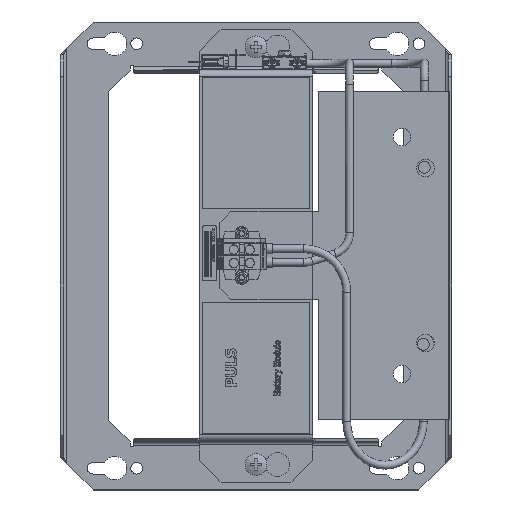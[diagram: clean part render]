
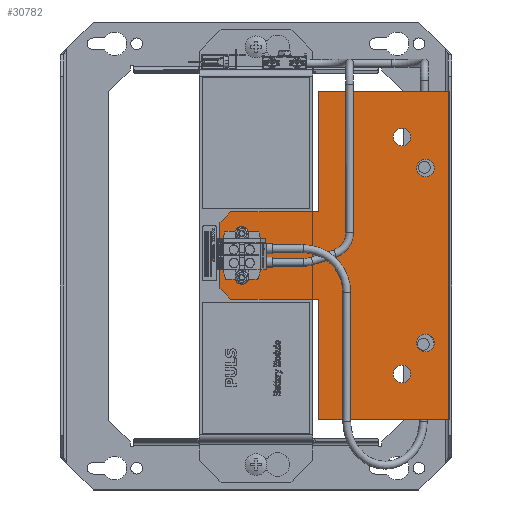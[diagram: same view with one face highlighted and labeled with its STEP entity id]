
A CAD part, top view. The second image highlights one B-rep face of the part: STEP entity #30782.
In plain terms, the highlighted planar face has unit normal (0, 0, 1).
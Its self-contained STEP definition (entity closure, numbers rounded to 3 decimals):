
#1481=FACE_BOUND('',#11617,.T.);
#1482=FACE_BOUND('',#11618,.T.);
#1483=FACE_BOUND('',#11619,.T.);
#1484=FACE_BOUND('',#11620,.T.);
#1485=FACE_BOUND('',#11621,.T.);
#1486=FACE_BOUND('',#11622,.T.);
#1760=PLANE('',#33156);
#3132=LINE('',#43454,#6478);
#3136=LINE('',#43462,#6482);
#3139=LINE('',#43468,#6485);
#3142=LINE('',#43474,#6488);
#3152=LINE('',#43509,#6498);
#3158=LINE('',#43525,#6504);
#3163=LINE('',#43536,#6509);
#3165=LINE('',#43541,#6511);
#3166=LINE('',#43542,#6512);
#3167=LINE('',#43543,#6513);
#6478=VECTOR('',#35779,10.);
#6482=VECTOR('',#35785,10.);
#6485=VECTOR('',#35790,10.);
#6488=VECTOR('',#35795,10.);
#6498=VECTOR('',#35825,10.);
#6504=VECTOR('',#35839,10.);
#6509=VECTOR('',#35852,10.);
#6511=VECTOR('',#35858,10.);
#6512=VECTOR('',#35859,10.);
#6513=VECTOR('',#35860,10.);
#9864=FACE_OUTER_BOUND('',#11616,.T.);
#11616=EDGE_LOOP('',(#22467,#22468,#22469,#22470,#22471,#22472,#22473,#22474,
#22475,#22476));
#11617=EDGE_LOOP('',(#22477,#22478));
#11618=EDGE_LOOP('',(#22479,#22480));
#11619=EDGE_LOOP('',(#22481,#22482));
#11620=EDGE_LOOP('',(#22483,#22484));
#11621=EDGE_LOOP('',(#22485,#22486));
#11622=EDGE_LOOP('',(#22487,#22488));
#13387=CIRCLE('',#33138,1.5);
#13388=CIRCLE('',#33139,1.5);
#13390=CIRCLE('',#33142,1.5);
#13391=CIRCLE('',#33143,1.5);
#13397=CIRCLE('',#33157,4.);
#13398=CIRCLE('',#33158,4.);
#13399=CIRCLE('',#33159,4.);
#13400=CIRCLE('',#33160,4.);
#13401=CIRCLE('',#33161,4.);
#13402=CIRCLE('',#33162,4.);
#13403=CIRCLE('',#33163,4.);
#13404=CIRCLE('',#33164,4.);
#14116=VERTEX_POINT('',#43452);
#14117=VERTEX_POINT('',#43453);
#14120=VERTEX_POINT('',#43461);
#14122=VERTEX_POINT('',#43467);
#14124=VERTEX_POINT('',#43473);
#14126=VERTEX_POINT('',#43479);
#14127=VERTEX_POINT('',#43480);
#14129=VERTEX_POINT('',#43487);
#14130=VERTEX_POINT('',#43488);
#14138=VERTEX_POINT('',#43506);
#14139=VERTEX_POINT('',#43508);
#14144=VERTEX_POINT('',#43522);
#14145=VERTEX_POINT('',#43524);
#14148=VERTEX_POINT('',#43540);
#14149=VERTEX_POINT('',#43544);
#14150=VERTEX_POINT('',#43545);
#14151=VERTEX_POINT('',#43548);
#14152=VERTEX_POINT('',#43549);
#14153=VERTEX_POINT('',#43552);
#14154=VERTEX_POINT('',#43553);
#14155=VERTEX_POINT('',#43556);
#14156=VERTEX_POINT('',#43557);
#17324=EDGE_CURVE('',#14116,#14117,#3132,.T.);
#17328=EDGE_CURVE('',#14120,#14116,#3136,.T.);
#17331=EDGE_CURVE('',#14122,#14120,#3139,.T.);
#17334=EDGE_CURVE('',#14122,#14124,#3142,.T.);
#17337=EDGE_CURVE('',#14126,#14127,#13387,.T.);
#17338=EDGE_CURVE('',#14127,#14126,#13388,.T.);
#17341=EDGE_CURVE('',#14129,#14130,#13390,.T.);
#17342=EDGE_CURVE('',#14130,#14129,#13391,.T.);
#17351=EDGE_CURVE('',#14138,#14139,#3152,.T.);
#17359=EDGE_CURVE('',#14144,#14145,#3158,.T.);
#17365=EDGE_CURVE('',#14144,#14139,#3163,.T.);
#17367=EDGE_CURVE('',#14148,#14117,#3165,.T.);
#17368=EDGE_CURVE('',#14145,#14148,#3166,.T.);
#17369=EDGE_CURVE('',#14124,#14138,#3167,.T.);
#17370=EDGE_CURVE('',#14149,#14150,#13397,.T.);
#17371=EDGE_CURVE('',#14150,#14149,#13398,.T.);
#17372=EDGE_CURVE('',#14151,#14152,#13399,.T.);
#17373=EDGE_CURVE('',#14152,#14151,#13400,.T.);
#17374=EDGE_CURVE('',#14153,#14154,#13401,.T.);
#17375=EDGE_CURVE('',#14154,#14153,#13402,.T.);
#17376=EDGE_CURVE('',#14155,#14156,#13403,.T.);
#17377=EDGE_CURVE('',#14156,#14155,#13404,.T.);
#22467=ORIENTED_EDGE('',*,*,#17324,.T.);
#22468=ORIENTED_EDGE('',*,*,#17367,.F.);
#22469=ORIENTED_EDGE('',*,*,#17368,.F.);
#22470=ORIENTED_EDGE('',*,*,#17359,.F.);
#22471=ORIENTED_EDGE('',*,*,#17365,.T.);
#22472=ORIENTED_EDGE('',*,*,#17351,.F.);
#22473=ORIENTED_EDGE('',*,*,#17369,.F.);
#22474=ORIENTED_EDGE('',*,*,#17334,.F.);
#22475=ORIENTED_EDGE('',*,*,#17331,.T.);
#22476=ORIENTED_EDGE('',*,*,#17328,.T.);
#22477=ORIENTED_EDGE('',*,*,#17337,.T.);
#22478=ORIENTED_EDGE('',*,*,#17338,.T.);
#22479=ORIENTED_EDGE('',*,*,#17341,.T.);
#22480=ORIENTED_EDGE('',*,*,#17342,.T.);
#22481=ORIENTED_EDGE('',*,*,#17370,.T.);
#22482=ORIENTED_EDGE('',*,*,#17371,.T.);
#22483=ORIENTED_EDGE('',*,*,#17372,.T.);
#22484=ORIENTED_EDGE('',*,*,#17373,.T.);
#22485=ORIENTED_EDGE('',*,*,#17374,.T.);
#22486=ORIENTED_EDGE('',*,*,#17375,.T.);
#22487=ORIENTED_EDGE('',*,*,#17376,.T.);
#22488=ORIENTED_EDGE('',*,*,#17377,.T.);
#30782=ADVANCED_FACE('',(#9864,#1481,#1482,#1483,#1484,#1485,#1486),#1760,
 .T.);
#33138=AXIS2_PLACEMENT_3D('',#43481,#35800,#35801);
#33139=AXIS2_PLACEMENT_3D('',#43482,#35802,#35803);
#33142=AXIS2_PLACEMENT_3D('',#43489,#35809,#35810);
#33143=AXIS2_PLACEMENT_3D('',#43490,#35811,#35812);
#33156=AXIS2_PLACEMENT_3D('',#43539,#35856,#35857);
#33157=AXIS2_PLACEMENT_3D('',#43546,#35861,#35862);
#33158=AXIS2_PLACEMENT_3D('',#43547,#35863,#35864);
#33159=AXIS2_PLACEMENT_3D('',#43550,#35865,#35866);
#33160=AXIS2_PLACEMENT_3D('',#43551,#35867,#35868);
#33161=AXIS2_PLACEMENT_3D('',#43554,#35869,#35870);
#33162=AXIS2_PLACEMENT_3D('',#43555,#35871,#35872);
#33163=AXIS2_PLACEMENT_3D('',#43558,#35873,#35874);
#33164=AXIS2_PLACEMENT_3D('',#43559,#35875,#35876);
#35779=DIRECTION('',(-0.707,0.707,0.));
#35785=DIRECTION('',(0.,1.,0.));
#35790=DIRECTION('',(0.707,0.707,0.));
#35795=DIRECTION('',(-1.,0.,0.));
#35800=DIRECTION('center_axis',(0.,0.,-1.));
#35801=DIRECTION('ref_axis',(1.,0.,0.));
#35802=DIRECTION('center_axis',(0.,0.,-1.));
#35803=DIRECTION('ref_axis',(1.,0.,0.));
#35809=DIRECTION('center_axis',(0.,0.,-1.));
#35810=DIRECTION('ref_axis',(1.,0.,0.));
#35811=DIRECTION('center_axis',(0.,0.,-1.));
#35812=DIRECTION('ref_axis',(1.,0.,0.));
#35825=DIRECTION('',(-1.,0.,0.));
#35839=DIRECTION('',(1.,0.,0.));
#35852=DIRECTION('',(0.,-1.,0.));
#35856=DIRECTION('center_axis',(0.,0.,1.));
#35857=DIRECTION('ref_axis',(1.,0.,0.));
#35858=DIRECTION('',(1.,0.,0.));
#35859=DIRECTION('',(0.,-1.,0.));
#35860=DIRECTION('',(0.,-1.,0.));
#35861=DIRECTION('center_axis',(0.,0.,-1.));
#35862=DIRECTION('ref_axis',(1.,0.,0.));
#35863=DIRECTION('center_axis',(0.,0.,-1.));
#35864=DIRECTION('ref_axis',(1.,0.,0.));
#35865=DIRECTION('center_axis',(0.,0.,-1.));
#35866=DIRECTION('ref_axis',(1.,0.,0.));
#35867=DIRECTION('center_axis',(0.,0.,-1.));
#35868=DIRECTION('ref_axis',(1.,0.,0.));
#35869=DIRECTION('center_axis',(0.,0.,-1.));
#35870=DIRECTION('ref_axis',(1.,0.,0.));
#35871=DIRECTION('center_axis',(0.,0.,-1.));
#35872=DIRECTION('ref_axis',(1.,0.,0.));
#35873=DIRECTION('center_axis',(0.,0.,-1.));
#35874=DIRECTION('ref_axis',(1.,0.,0.));
#35875=DIRECTION('center_axis',(0.,0.,-1.));
#35876=DIRECTION('ref_axis',(1.,0.,0.));
#43452=CARTESIAN_POINT('',(45.,15.,0.5));
#43453=CARTESIAN_POINT('',(40.,20.,0.5));
#43454=CARTESIAN_POINT('',(33.854,26.146,0.5));
#43461=CARTESIAN_POINT('',(45.,-15.,0.5));
#43462=CARTESIAN_POINT('',(45.,-7.5,0.5));
#43467=CARTESIAN_POINT('',(40.,-20.,0.5));
#43468=CARTESIAN_POINT('',(31.354,-28.646,0.5));
#43473=CARTESIAN_POINT('',(0.,-20.,0.5));
#43474=CARTESIAN_POINT('',(53.,-20.,0.5));
#43479=CARTESIAN_POINT('',(36.5,10.05,0.5));
#43480=CARTESIAN_POINT('',(33.5,10.05,0.5));
#43481=CARTESIAN_POINT('Origin',(35.,10.05,0.5));
#43482=CARTESIAN_POINT('Origin',(35.,10.05,0.5));
#43487=CARTESIAN_POINT('',(36.5,-10.05,0.5));
#43488=CARTESIAN_POINT('',(33.5,-10.05,0.5));
#43489=CARTESIAN_POINT('Origin',(35.,-10.05,0.5));
#43490=CARTESIAN_POINT('Origin',(35.,-10.05,0.5));
#43506=CARTESIAN_POINT('',(0.,-75.,0.5));
#43508=CARTESIAN_POINT('',(-59.45,-75.,0.5));
#43509=CARTESIAN_POINT('',(0.,-75.,0.5));
#43522=CARTESIAN_POINT('',(-59.45,75.,0.5));
#43524=CARTESIAN_POINT('',(0.,75.,0.5));
#43525=CARTESIAN_POINT('',(-60.,75.,0.5));
#43536=CARTESIAN_POINT('',(-59.45,-37.5,0.5));
#43539=CARTESIAN_POINT('Origin',(-14.584,0.,
0.5));
#43540=CARTESIAN_POINT('',(0.,20.,0.5));
#43541=CARTESIAN_POINT('',(0.,20.,0.5));
#43542=CARTESIAN_POINT('',(0.,75.,0.5));
#43543=CARTESIAN_POINT('',(0.,-20.,0.5));
#43544=CARTESIAN_POINT('',(-34.3,54.1,0.5));
#43545=CARTESIAN_POINT('',(-42.3,54.1,0.5));
#43546=CARTESIAN_POINT('Origin',(-38.3,54.1,0.5));
#43547=CARTESIAN_POINT('Origin',(-38.3,54.1,0.5));
#43548=CARTESIAN_POINT('',(-45.,-40.,0.5));
#43549=CARTESIAN_POINT('',(-53.,-40.,0.5));
#43550=CARTESIAN_POINT('Origin',(-49.,-40.,0.5));
#43551=CARTESIAN_POINT('Origin',(-49.,-40.,0.5));
#43552=CARTESIAN_POINT('',(-45.,40.,0.5));
#43553=CARTESIAN_POINT('',(-53.,40.,0.5));
#43554=CARTESIAN_POINT('Origin',(-49.,40.,0.5));
#43555=CARTESIAN_POINT('Origin',(-49.,40.,0.5));
#43556=CARTESIAN_POINT('',(-34.3,-54.1,0.5));
#43557=CARTESIAN_POINT('',(-42.3,-54.1,0.5));
#43558=CARTESIAN_POINT('Origin',(-38.3,-54.1,0.5));
#43559=CARTESIAN_POINT('Origin',(-38.3,-54.1,0.5));
